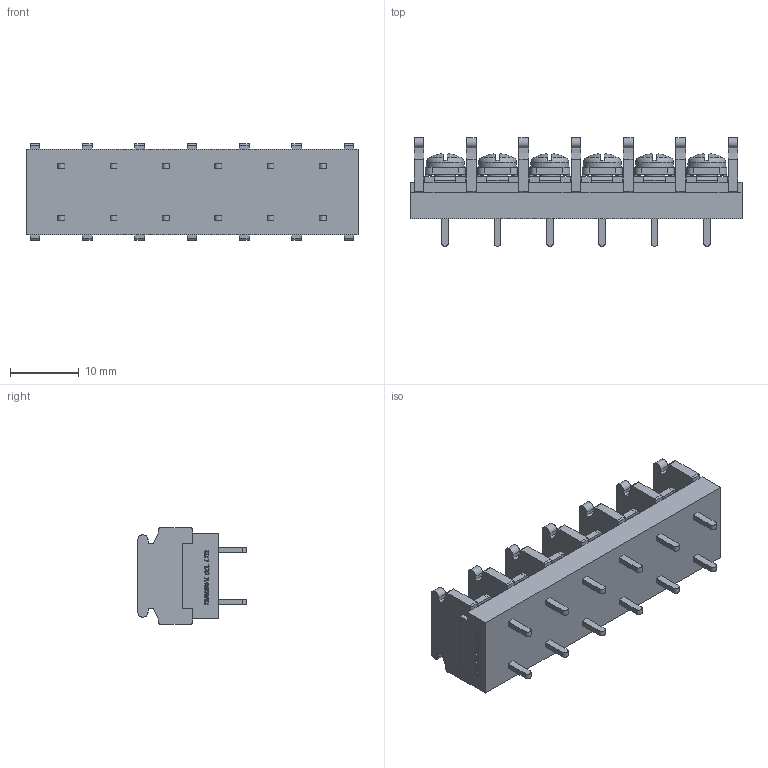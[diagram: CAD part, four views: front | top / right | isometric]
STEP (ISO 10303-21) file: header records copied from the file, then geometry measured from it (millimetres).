
FILE_DESCRIPTION(/* description */ ('Alibre Inc.'),/* implementation_level */ '2;1');
FILE_NAME(/* name */ 'export0',/* time_stamp */ '2015-10-23T20:17:35+09:00',/* author */ (''),/* organization */ (''),/* preprocessor_version */ 'ST-DEVELOPER v14',/* originating_system */ 'Alibre',/* authorisation */ '');
FILE_SCHEMA (('CONFIG_CONTROL_DESIGN'));
Length unit declared in the file: centimetre
Products named in the file (1): ID_1
Bounding box: 48.34 x 15.8 x 14 mm (x, y, z)
Volume: 4603.2 mm3; surface area: 4497.7 mm2
Topology: 1 solids, 1 shells, 1104 faces, 3008 edges, 1976 vertices
Faces by surface type: plane 850, bspline 104, cylinder 102, cone 24, torus 12, sphere 12
Full cylindrical faces by diameter (mm): 3 x6, 5.5 x6
Entity records: 33157 total; most frequent: CARTESIAN_POINT 7197, ORIENTED_EDGE 5944, DIRECTION 4070, EDGE_CURVE 2972, VECTOR 2200, LINE 2200, VERTEX_POINT 1964, AXIS2_PLACEMENT_3D 1329
